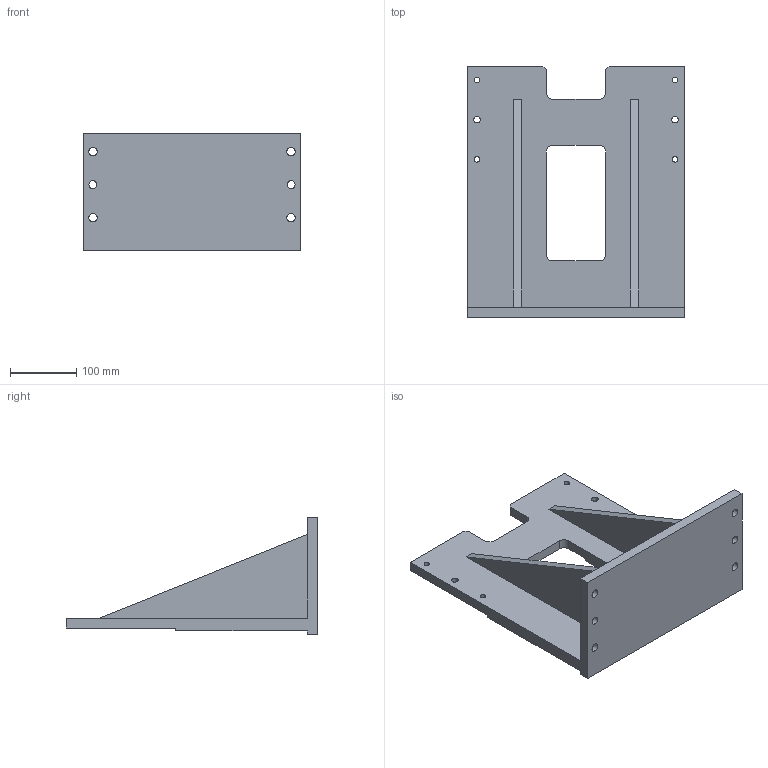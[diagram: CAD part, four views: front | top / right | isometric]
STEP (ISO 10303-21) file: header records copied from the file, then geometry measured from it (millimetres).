
FILE_DESCRIPTION(/* description */ ('DB4-RISER'),/* implementation_level */ '2;1');
FILE_NAME(/* name */ 'C:\Vault Workspace\CAD\Welker\Shot Pin\DBL40\S01896 DB4 Mounting Accessories\S01896E02\S01896E02-300.stp',/* time_stamp */ '2016-05-04T13:50:09-04:00',/* author */ ('klabrecque'),/* organization */ (''),/* preprocessor_version */ 'ST-DEVELOPER v15.2',/* originating_system */ 'Autodesk Inventor 2014',/* authorisation */ '');
FILE_SCHEMA (('AUTOMOTIVE_DESIGN { 1 0 10303 214 3 1 1 }'));
Length unit declared in the file: millimetre
Products named in the file (1): S01896E02-300
Bounding box: 330 x 381 x 177.8 mm (x, y, z)
Volume: 3155676.5 mm3; surface area: 438257.3 mm2
Topology: 1 solids, 1 shells, 47 faces, 150 edges, 104 vertices
Faces by surface type: plane 29, cylinder 18
Full cylindrical faces by diameter (mm): 8.376 x4, 10 x2, 12 x2, 12.5 x4
Entity records: 1628 total; most frequent: CARTESIAN_POINT 266, DIRECTION 258, ORIENTED_EDGE 252, EDGE_CURVE 126, VERTEX_POINT 92, LINE 90, VECTOR 90, EDGE_LOOP 84
